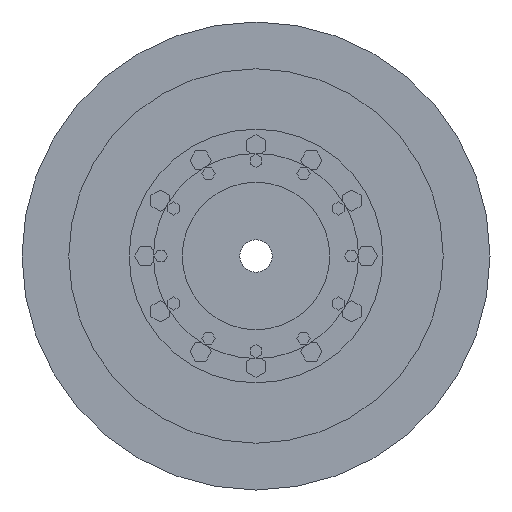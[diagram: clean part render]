
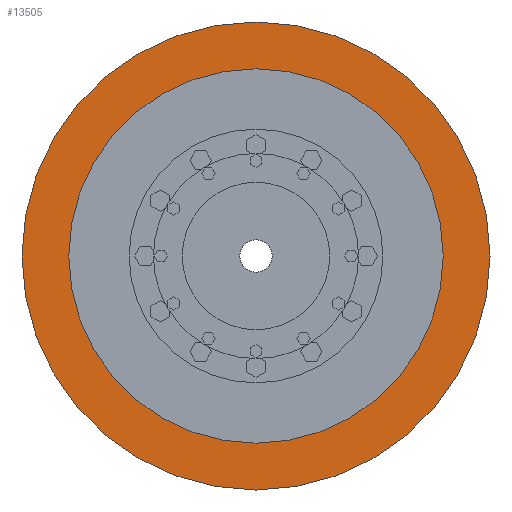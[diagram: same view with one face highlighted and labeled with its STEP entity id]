
A CAD part, left-side view. The second image highlights one B-rep face of the part: STEP entity #13505.
In plain terms, the highlighted planar face has unit normal (-1, 0, 0).
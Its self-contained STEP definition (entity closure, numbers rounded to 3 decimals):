
#13302=CARTESIAN_POINT('',(-6.35,0.,0.));
#13303=DIRECTION('',(-1.,0.,0.));
#13304=DIRECTION('',(0.,1.,0.));
#13305=AXIS2_PLACEMENT_3D('',#13302,#13303,#13304);
#13307=CARTESIAN_POINT('',(-6.35,0.,0.));
#13308=DIRECTION('',(1.,0.,0.));
#13309=DIRECTION('',(0.,1.,0.));
#13310=AXIS2_PLACEMENT_3D('',#13307,#13308,#13309);
#13312=CARTESIAN_POINT('',(-6.35,0.,0.));
#13313=DIRECTION('',(1.,0.,0.));
#13314=DIRECTION('',(0.,1.,0.));
#13315=AXIS2_PLACEMENT_3D('',#13312,#13313,#13314);
#13325=CARTESIAN_POINT('',(-6.35,0.,0.));
#13326=DIRECTION('',(-1.,0.,0.));
#13327=DIRECTION('',(0.,1.,0.));
#13328=AXIS2_PLACEMENT_3D('',#13325,#13326,#13327);
#13348=CARTESIAN_POINT('',(-6.35,162.4,0.));
#13350=VERTEX_POINT('',#13348);
#13360=CARTESIAN_POINT('',(-6.35,-162.4,0.));
#13362=VERTEX_POINT('',#13360);
#13365=CARTESIAN_POINT('',(-6.35,203.,0.));
#13367=VERTEX_POINT('',#13365);
#13369=CARTESIAN_POINT('',(-6.35,-203.,0.));
#13371=VERTEX_POINT('',#13369);
#13490=CARTESIAN_POINT('',(-6.35,0.,0.));
#13491=DIRECTION('',(1.,0.,0.));
#13492=DIRECTION('',(0.,-1.,0.));
#13493=AXIS2_PLACEMENT_3D('',#13490,#13491,#13492);
#13494=PLANE('',#13493);
#13495=ORIENTED_EDGE('',*,*,#13483,.F.);
#13496=ORIENTED_EDGE('',*,*,#13472,.T.);
#13497=EDGE_LOOP('',(#13495,#13496));
#13498=FACE_OUTER_BOUND('',#13497,.F.);
#13500=ORIENTED_EDGE('',*,*,#13499,.F.);
#13502=ORIENTED_EDGE('',*,*,#13501,.T.);
#13503=EDGE_LOOP('',(#13500,#13502));
#13504=FACE_BOUND('',#13503,.F.);
#13505=ADVANCED_FACE('',(#13498,#13504),#13494,.F.);
#13306=CIRCLE('',#13305,203.);
#13311=CIRCLE('',#13310,203.);
#13316=CIRCLE('',#13315,162.4);
#13329=CIRCLE('',#13328,162.4);
#13472=EDGE_CURVE('',#13367,#13371,#13311,.T.);
#13483=EDGE_CURVE('',#13367,#13371,#13306,.T.);
#13499=EDGE_CURVE('',#13350,#13362,#13316,.T.);
#13501=EDGE_CURVE('',#13350,#13362,#13329,.T.);
